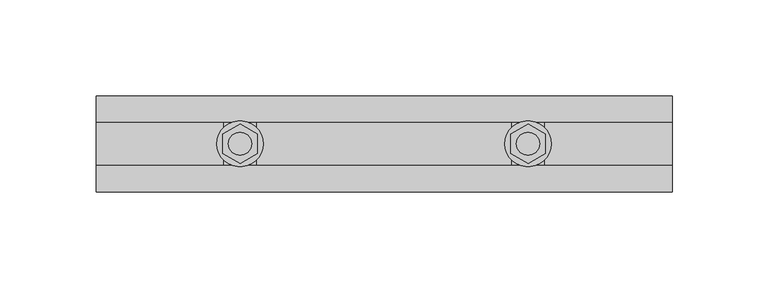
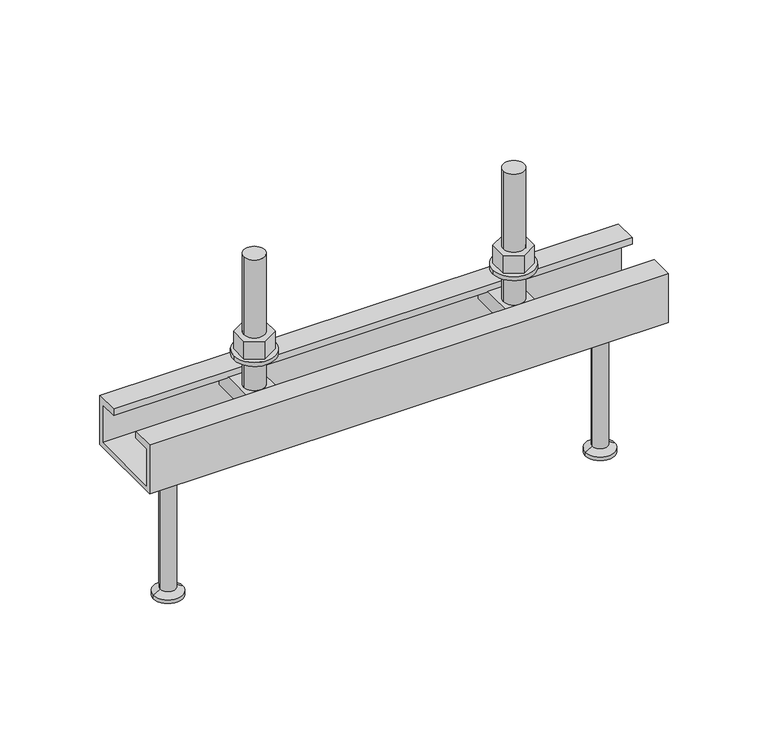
"""IFC4 building model written with IfcOpenShell, lengths in millimetres: fastener geometry, JTA-W JORDAHL® AnchorChannels : JTA-W L=300 mm."""

from ifc_helpers import new_model, si_unit, point, frame, frame_2d, origin, place, context, project, spatial, polyline, circle_curve, trimmed, segment, composite_curve, outline, extrude, source, transform, mapped, element, save
from ifc_brep_helpers import plane_surface, cylinder_surface, revolved_surface, advanced_brep


def fastener_4e2e3fd8(model_context):
    return source(origin(), model_context, "Body", "SolidModel", [
        extrude(outline(polyline([(225.0, -10.3923048), (216.0, -5.1961524), (216.0, 5.1961524), (225.0, 10.3923048), (234.0, 5.1961524), (234.0, -5.1961524), (225.0, -10.3923048)]), holes=[composite_curve([segment(trimmed(circle_curve(frame_2d((225.0, 0.0)), 6.0), [point((219.0, 0.0))], [point((231.0, 0.0))], True, "CARTESIAN"), True, "CONTINUOUS"), segment(trimmed(circle_curve(frame_2d((225.0, 0.0)), 6.0), [point((231.0, 0.0))], [point((219.0, 0.0))], True, "CARTESIAN"), True, "CONTINUOUS")], self_intersect=False)]), frame((0.0, 0.0, 17.5), z_axis=(0.0, 0.0, 1.0), x_axis=(1.0, 0.0, 0.0)), (0.0, 0.0, 1.0), 10.8),
        extrude(outline(composite_curve([segment(trimmed(circle_curve(frame_2d((225.0, 0.0)), 12.0), [point((213.0, 0.0))], [point((237.0, 0.0))], False, "CARTESIAN"), True, "CONTINUOUS"), segment(trimmed(circle_curve(frame_2d((225.0, 0.0)), 12.0), [point((237.0, 0.0))], [point((213.0, 0.0))], False, "CARTESIAN"), True, "CONTINUOUS")], self_intersect=False), holes=[composite_curve([segment(trimmed(circle_curve(frame_2d((225.0, 0.0)), 6.5), [point((218.5, 0.0))], [point((231.5, 0.0))], True, "CARTESIAN"), True, "CONTINUOUS"), segment(trimmed(circle_curve(frame_2d((225.0, 0.0)), 6.5), [point((231.5, 0.0))], [point((218.5, 0.0))], True, "CARTESIAN"), True, "CONTINUOUS")], self_intersect=False)]), frame((0.0, 0.0, 15.0), z_axis=(0.0, 0.0, 1.0), x_axis=(1.0, 0.0, 0.0)), (0.0, 0.0, 1.0), 2.5),
        extrude(outline(polyline([(75.0, -10.3923048), (66.0, -5.1961524), (66.0, 5.1961524), (75.0, 10.3923048), (84.0, 5.1961524), (84.0, -5.1961524), (75.0, -10.3923048)]), holes=[composite_curve([segment(trimmed(circle_curve(frame_2d((75.0, 0.0)), 6.0), [point((69.0, 0.0))], [point((81.0, 0.0))], True, "CARTESIAN"), True, "CONTINUOUS"), segment(trimmed(circle_curve(frame_2d((75.0, 0.0)), 6.0), [point((81.0, 0.0))], [point((69.0, 0.0))], True, "CARTESIAN"), True, "CONTINUOUS")], self_intersect=False)]), frame((0.0, 0.0, 17.5), z_axis=(0.0, 0.0, 1.0), x_axis=(1.0, 0.0, 0.0)), (0.0, 0.0, 1.0), 10.8),
        extrude(outline(composite_curve([segment(trimmed(circle_curve(frame_2d((75.0, 0.0)), 12.0), [point((63.0, 0.0))], [point((87.0, 0.0))], False, "CARTESIAN"), True, "CONTINUOUS"), segment(trimmed(circle_curve(frame_2d((75.0, 0.0)), 12.0), [point((87.0, 0.0))], [point((63.0, 0.0))], False, "CARTESIAN"), True, "CONTINUOUS")], self_intersect=False), holes=[composite_curve([segment(trimmed(circle_curve(frame_2d((75.0, 0.0)), 6.5), [point((68.5, 0.0))], [point((81.5, 0.0))], True, "CARTESIAN"), True, "CONTINUOUS"), segment(trimmed(circle_curve(frame_2d((75.0, 0.0)), 6.5), [point((81.5, 0.0))], [point((68.5, 0.0))], True, "CARTESIAN"), True, "CONTINUOUS")], self_intersect=False)]), frame((0.0, 0.0, 15.0), z_axis=(0.0, 0.0, 1.0), x_axis=(1.0, 0.0, 0.0)), (0.0, 0.0, 1.0), 2.5),
        advanced_brep(
        [(233.5, -20.7, -4.0), (233.5, -20.7, -14.0), (233.5, 20.7, -14.0), (233.5, 20.7, -4.0), (216.5, -20.7, -4.0), (216.5, 20.7, -4.0), (216.5, 20.7, -14.0), (216.5, -20.7, -14.0), (231.0, 0.0, -4.0), (219.0, 0.0, -4.0), (219.0, 0.0, 76.0), (231.0, 0.0, 76.0)],
        [
            (0, 1),
            (1, 2),
            (2, 3),
            (3, 0),
            (4, 5),
            (5, 6),
            (6, 7),
            (7, 4),
            (3, 5),
            (4, 0),
            (8, 9, circle_curve(frame((225.0, 0.0, -4.0), z_axis=(0.0, 0.0, -1.0), x_axis=(1.0, 0.0, 0.0)), 6.0)),
            (9, 8, circle_curve(frame((225.0, 0.0, -4.0), z_axis=(0.0, 0.0, -1.0), x_axis=(1.0, 0.0, 0.0)), 6.0)),
            (2, 6),
            (1, 7),
            (10, 11, circle_curve(frame((225.0, 0.0, 76.0), z_axis=(0.0, 0.0, 1.0), x_axis=(1.0, 0.0, 0.0)), 6.0)),
            (11, 10, circle_curve(frame((225.0, 0.0, 76.0), z_axis=(0.0, 0.0, 1.0), x_axis=(1.0, 0.0, 0.0)), 6.0)),
            (11, 8),
            (9, 10),
        ],
        [
            plane_surface(frame((233.5, 20.7, -4.0), z_axis=(1.0, 0.0, 0.0), x_axis=(0.0, 1.0, 0.0))),
            plane_surface(frame((216.5, 20.7, -4.0), z_axis=(-1.0, 0.0, 0.0), x_axis=(0.0, -1.0, 0.0))),
            plane_surface(frame((233.5, -20.7, -4.0), z_axis=(0.0, 0.0, 1.0), x_axis=(-1.0, 0.0, 0.0))),
            plane_surface(frame((233.5, 20.7, -4.0), z_axis=(0.0, 1.0, 0.0), x_axis=(-1.0, 0.0, 0.0))),
            plane_surface(frame((233.5, 20.7, -14.0), z_axis=(0.0, 0.0, -1.0), x_axis=(-1.0, 0.0, 0.0))),
            plane_surface(frame((233.5, -20.7, -14.0), z_axis=(0.0, -1.0, 0.0), x_axis=(-1.0, 0.0, 0.0))),
            plane_surface(frame((231.0, 0.0, 76.0), z_axis=(0.0, 0.0, 1.0), x_axis=(0.0, -1.0, 0.0))),
            cylinder_surface(frame((225.0, 0.0, -4.0), z_axis=(0.0, 0.0, 1.0), x_axis=(1.0, 0.0, 0.0)), 6.0),
        ],
        [
            (0, [[1, 2, 3, 4]]),
            (1, [[5, 6, 7, 8]]),
            (2, [[9, -5, 10, -4], [11, 12]]),
            (3, [[13, -6, -9, -3]]),
            (4, [[14, -7, -13, -2]]),
            (5, [[-10, -8, -14, -1]]),
            (6, [[15, 16]]),
            (7, [[17, -12, 18, -16]]),
            (7, [[-18, -11, -17, -15]]),
        ],
    ),
        advanced_brep(
        [(83.5, -20.7, -4.0), (83.5, -20.7, -14.0), (83.5, 20.7, -14.0), (83.5, 20.7, -4.0), (66.5, -20.7, -4.0), (66.5, 20.7, -4.0), (66.5, 20.7, -14.0), (66.5, -20.7, -14.0), (81.0, 0.0, -4.0), (69.0, 0.0, -4.0), (69.0, 0.0, 76.0), (81.0, 0.0, 76.0)],
        [
            (0, 1),
            (1, 2),
            (2, 3),
            (3, 0),
            (4, 5),
            (5, 6),
            (6, 7),
            (7, 4),
            (3, 5),
            (4, 0),
            (8, 9, circle_curve(frame((75.0, 0.0, -4.0), z_axis=(0.0, 0.0, -1.0), x_axis=(1.0, 0.0, 0.0)), 6.0)),
            (9, 8, circle_curve(frame((75.0, 0.0, -4.0), z_axis=(0.0, 0.0, -1.0), x_axis=(1.0, 0.0, 0.0)), 6.0)),
            (2, 6),
            (1, 7),
            (10, 11, circle_curve(frame((75.0, 0.0, 76.0), z_axis=(0.0, 0.0, 1.0), x_axis=(1.0, 0.0, 0.0)), 6.0)),
            (11, 10, circle_curve(frame((75.0, 0.0, 76.0), z_axis=(0.0, 0.0, 1.0), x_axis=(1.0, 0.0, 0.0)), 6.0)),
            (11, 8),
            (9, 10),
        ],
        [
            plane_surface(frame((83.5, 20.7, -4.0), z_axis=(1.0, 0.0, 0.0), x_axis=(0.0, 1.0, 0.0))),
            plane_surface(frame((66.5, 20.7, -4.0), z_axis=(-1.0, 0.0, 0.0), x_axis=(0.0, -1.0, 0.0))),
            plane_surface(frame((83.5, -20.7, -4.0), z_axis=(0.0, 0.0, 1.0), x_axis=(-1.0, 0.0, 0.0))),
            plane_surface(frame((83.5, 20.7, -4.0), z_axis=(0.0, 1.0, 0.0), x_axis=(-1.0, 0.0, 0.0))),
            plane_surface(frame((83.5, 20.7, -14.0), z_axis=(0.0, 0.0, -1.0), x_axis=(-1.0, 0.0, 0.0))),
            plane_surface(frame((83.5, -20.7, -14.0), z_axis=(0.0, -1.0, 0.0), x_axis=(-1.0, 0.0, 0.0))),
            plane_surface(frame((81.0, 0.0, 76.0), z_axis=(0.0, 0.0, 1.0), x_axis=(0.0, -1.0, 0.0))),
            cylinder_surface(frame((75.0, 0.0, -4.0), z_axis=(0.0, 0.0, 1.0), x_axis=(1.0, 0.0, 0.0)), 6.0),
        ],
        [
            (0, [[1, 2, 3, 4]]),
            (1, [[5, 6, 7, 8]]),
            (2, [[9, -5, 10, -4], [11, 12]]),
            (3, [[13, -6, -9, -3]]),
            (4, [[14, -7, -13, -2]]),
            (5, [[-10, -8, -14, -1]]),
            (6, [[15, 16]]),
            (7, [[17, -12, 18, -16]]),
            (7, [[-18, -11, -17, -15]]),
        ],
    ),
        advanced_brep(
        [(275.0, 0.0, -30.0), (261.5, 0.0, -30.0), (288.5, 0.0, -30.0), (266.5, 0.0, -115.0), (275.0, 0.0, -115.0), (283.5, 0.0, -115.0), (266.5, 0.0, -113.0), (283.5, 0.0, -113.0), (270.5, 0.0, -110.6905989), (279.5, 0.0, -110.6905989), (270.5, 0.0, -32.5), (279.5, 0.0, -32.5)],
        [
            (0, 1),
            (1, 2, circle_curve(frame((275.0, 0.0, -30.0), z_axis=(0.0, 0.0, 1.0), x_axis=(1.0, 0.0, 0.0)), 13.5)),
            (2, 0),
            (2, 1, circle_curve(frame((275.0, 0.0, -30.0), z_axis=(0.0, 0.0, 1.0), x_axis=(1.0, 0.0, 0.0)), 13.5)),
            (3, 4),
            (4, 5),
            (5, 3, circle_curve(frame((275.0, 0.0, -115.0), z_axis=(0.0, 0.0, -1.0), x_axis=(1.0, 0.0, 0.0)), 8.5)),
            (3, 5, circle_curve(frame((275.0, 0.0, -115.0), z_axis=(0.0, 0.0, -1.0), x_axis=(1.0, 0.0, 0.0)), 8.5)),
            (6, 3),
            (5, 7),
            (7, 6, circle_curve(frame((275.0, 0.0, -113.0), z_axis=(0.0, 0.0, -1.0), x_axis=(1.0, 0.0, 0.0)), 8.5)),
            (6, 7, circle_curve(frame((275.0, 0.0, -113.0), z_axis=(0.0, 0.0, -1.0), x_axis=(1.0, 0.0, 0.0)), 8.5)),
            (8, 6),
            (7, 9),
            (9, 8, circle_curve(frame((275.0, 0.0, -110.6905989), z_axis=(0.0, 0.0, -1.0), x_axis=(1.0, 0.0, 0.0)), 4.5)),
            (8, 9, circle_curve(frame((275.0, 0.0, -110.6905989), z_axis=(0.0, 0.0, -1.0), x_axis=(1.0, 0.0, 0.0)), 4.5)),
            (10, 8),
            (9, 11),
            (11, 10, circle_curve(frame((275.0, 0.0, -32.5), z_axis=(0.0, 0.0, -1.0), x_axis=(1.0, 0.0, 0.0)), 4.5)),
            (10, 11, circle_curve(frame((275.0, 0.0, -32.5), z_axis=(0.0, 0.0, -1.0), x_axis=(1.0, 0.0, 0.0)), 4.5)),
            (1, 10),
            (11, 2),
        ],
        [
            plane_surface(frame((275.0, 0.0, -30.0), z_axis=(0.0, 0.0, 1.0), x_axis=(1.0, 0.0, 0.0))),
            plane_surface(frame((275.0, 0.0, -115.0), z_axis=(0.0, 0.0, -1.0), x_axis=(1.0, 0.0, 0.0))),
            cylinder_surface(frame((275.0, 0.0, 2299.3150031), z_axis=(0.0, 0.0, 1.0), x_axis=(1.0, 0.0, 0.0)), 8.5),
            revolved_surface(polyline([(283.5, 0.0, -113.0), (279.5, 0.0, -110.6905989)]), (275.0, 0.0, 2299.3150031), (0.0, 0.0, 1.0)),
            cylinder_surface(frame((275.0, 0.0, 2299.3150031), z_axis=(0.0, 0.0, 1.0), x_axis=(1.0, 0.0, 0.0)), 4.5),
            revolved_surface(polyline([(279.5, 0.0, -32.5), (288.5, 0.0, -30.0)]), (275.0, 0.0, 2299.3150031), (0.0, 0.0, 1.0)),
        ],
        [
            (0, [[1, 2, 3]]),
            (0, [[-3, 4, -1]]),
            (1, [[5, 6, 7]]),
            (1, [[-6, -5, 8]]),
            (2, [[9, -7, 10, 11]]),
            (2, [[-10, -8, -9, 12]]),
            (3, [[13, -11, 14, 15]]),
            (3, [[-14, -12, -13, 16]]),
            (4, [[17, -15, 18, 19]]),
            (4, [[-18, -16, -17, 20]]),
            (5, [[21, -19, 22, -2]]),
            (5, [[-22, -20, -21, -4]]),
        ],
    ),
        advanced_brep(
        [(25.0, 0.0, -30.0), (11.5, 0.0, -30.0), (38.5, 0.0, -30.0), (16.5, 0.0, -115.0), (25.0, 0.0, -115.0), (33.5, 0.0, -115.0), (16.5, 0.0, -113.0), (33.5, 0.0, -113.0), (20.5, 0.0, -110.6905989), (29.5, 0.0, -110.6905989), (20.5, 0.0, -32.5), (29.5, 0.0, -32.5)],
        [
            (0, 1),
            (1, 2, circle_curve(frame((25.0, 0.0, -30.0), z_axis=(0.0, 0.0, 1.0), x_axis=(1.0, 0.0, 0.0)), 13.5)),
            (2, 0),
            (2, 1, circle_curve(frame((25.0, 0.0, -30.0), z_axis=(0.0, 0.0, 1.0), x_axis=(1.0, 0.0, 0.0)), 13.5)),
            (3, 4),
            (4, 5),
            (5, 3, circle_curve(frame((25.0, 0.0, -115.0), z_axis=(0.0, 0.0, -1.0), x_axis=(1.0, 0.0, 0.0)), 8.5)),
            (3, 5, circle_curve(frame((25.0, 0.0, -115.0), z_axis=(0.0, 0.0, -1.0), x_axis=(1.0, 0.0, 0.0)), 8.5)),
            (6, 3),
            (5, 7),
            (7, 6, circle_curve(frame((25.0, 0.0, -113.0), z_axis=(0.0, 0.0, -1.0), x_axis=(1.0, 0.0, 0.0)), 8.5)),
            (6, 7, circle_curve(frame((25.0, 0.0, -113.0), z_axis=(0.0, 0.0, -1.0), x_axis=(1.0, 0.0, 0.0)), 8.5)),
            (8, 6),
            (7, 9),
            (9, 8, circle_curve(frame((25.0, 0.0, -110.6905989), z_axis=(0.0, 0.0, -1.0), x_axis=(1.0, 0.0, 0.0)), 4.5)),
            (8, 9, circle_curve(frame((25.0, 0.0, -110.6905989), z_axis=(0.0, 0.0, -1.0), x_axis=(1.0, 0.0, 0.0)), 4.5)),
            (10, 8),
            (9, 11),
            (11, 10, circle_curve(frame((25.0, 0.0, -32.5), z_axis=(0.0, 0.0, -1.0), x_axis=(1.0, 0.0, 0.0)), 4.5)),
            (10, 11, circle_curve(frame((25.0, 0.0, -32.5), z_axis=(0.0, 0.0, -1.0), x_axis=(1.0, 0.0, 0.0)), 4.5)),
            (1, 10),
            (11, 2),
        ],
        [
            plane_surface(frame((25.0, 0.0, -30.0), z_axis=(0.0, 0.0, 1.0), x_axis=(1.0, 0.0, 0.0))),
            plane_surface(frame((25.0, 0.0, -115.0), z_axis=(0.0, 0.0, -1.0), x_axis=(1.0, 0.0, 0.0))),
            cylinder_surface(frame((25.0, 0.0, 2299.3150031), z_axis=(0.0, 0.0, 1.0), x_axis=(1.0, 0.0, 0.0)), 8.5),
            revolved_surface(polyline([(33.5, 0.0, -113.0), (29.5, 0.0, -110.6905989)]), (25.0, 0.0, 2299.3150031), (0.0, 0.0, 1.0)),
            cylinder_surface(frame((25.0, 0.0, 2299.3150031), z_axis=(0.0, 0.0, 1.0), x_axis=(1.0, 0.0, 0.0)), 4.5),
            revolved_surface(polyline([(29.5, 0.0, -32.5), (38.5, 0.0, -30.0)]), (25.0, 0.0, 2299.3150031), (0.0, 0.0, 1.0)),
        ],
        [
            (0, [[1, 2, 3]]),
            (0, [[-3, 4, -1]]),
            (1, [[5, 6, 7]]),
            (1, [[-6, -5, 8]]),
            (2, [[9, -7, 10, 11]]),
            (2, [[-10, -8, -9, 12]]),
            (3, [[13, -11, 14, 15]]),
            (3, [[-14, -12, -13, 16]]),
            (4, [[17, -15, 18, 19]]),
            (4, [[-18, -16, -17, 20]]),
            (5, [[21, -19, 22, -2]]),
            (5, [[-22, -20, -21, -4]]),
        ],
    ),
        extrude(outline(polyline([(-25.0, 0.0), (-11.25, 0.0), (-11.25, -4.0), (-22.2, -4.0), (-22.2, -27.2), (22.2, -27.2), (22.2, -4.0), (11.25, -4.0), (11.25, 0.0), (25.0, 0.0), (25.0, -30.0), (-25.0, -30.0), (-25.0, 0.0)])), frame((0.0, 0.0, 0.0), z_axis=(1.0, 0.0, 0.0), x_axis=(0.0, 1.0, 0.0)), (0.0, 0.0, 1.0), 300.0),
    ])


if __name__ == "__main__":
    model = new_model("IFC4")
    model_context = context("Model", 3, world=origin())
    ifc_project = project(units=[si_unit("LENGTHUNIT", "METRE", prefix="MILLI")], contexts=[model_context])
    site = spatial("IfcSite", under=ifc_project)
    building = spatial("IfcBuilding", under=site)
    placement = place(None, origin())
    fastener_shape = fastener_4e2e3fd8(model_context)
    element("IfcFastener", 1, ObjectType="JTA-W JORDAHL® AnchorChannels : JTA-W L=300 mm", at=placement, inside=building, context=model_context, shape_type="MappedRepresentation", body=[
        mapped(fastener_shape, transform((0.0, 0.0, 0.0), x_axis=(1.0, 0.0, 0.0), y_axis=(0.0, 1.0, 0.0), z_axis=(0.0, 0.0, 1.0))),
    ])
    save(model, "model.ifc")
